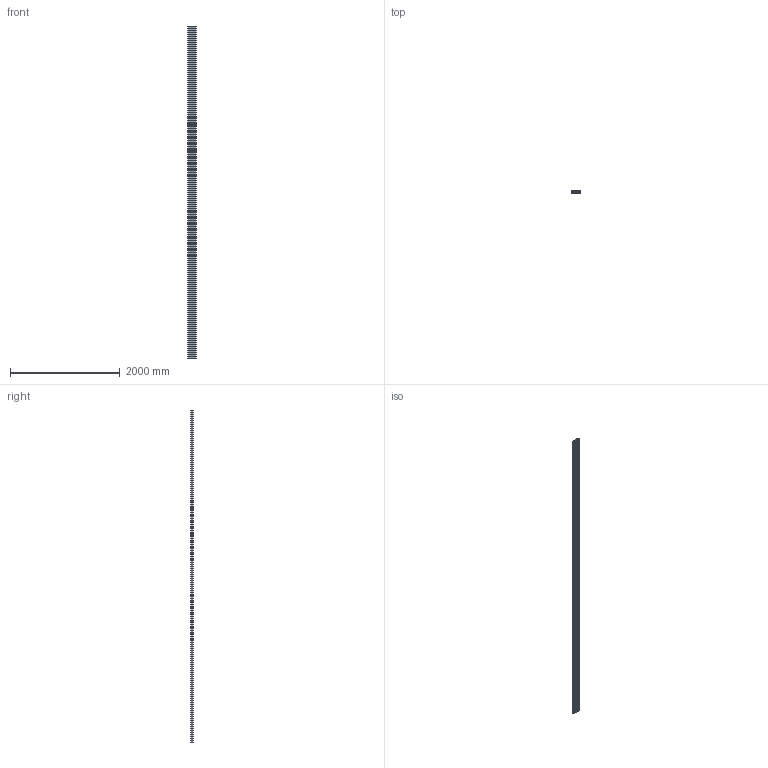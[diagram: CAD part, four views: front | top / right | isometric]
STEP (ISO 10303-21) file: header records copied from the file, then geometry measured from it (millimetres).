
FILE_DESCRIPTION (( 'STEP AP203' ), '1' );
FILE_NAME ('20208540_Profil 8 40x160L 4N.step', '2024-02-01T10:07:45', ( '' ), ( '' ), 'SwSTEP 2.0', 'SolidWorks 2021', '' );
FILE_SCHEMA (( 'CONFIG_CONTROL_DESIGN' ));
Length unit declared in the file: millimetre
Products named in the file (1): 20208540_Profil 8 40x160L 4N
Bounding box: 160 x 40 x 6060 mm (x, y, z)
Volume: 13131605.4 mm3; surface area: 8633193.9 mm2
Topology: 1 solids, 1 shells, 382 faces, 1140 edges, 760 vertices
Faces by surface type: cylinder 204, plane 178
Entity records: 13109 total; most frequent: DIRECTION 2314, CARTESIAN_POINT 2283, ORIENTED_EDGE 2280, EDGE_CURVE 1140, AXIS2_PLACEMENT_3D 791, VERTEX_POINT 760, LINE 732, VECTOR 732
